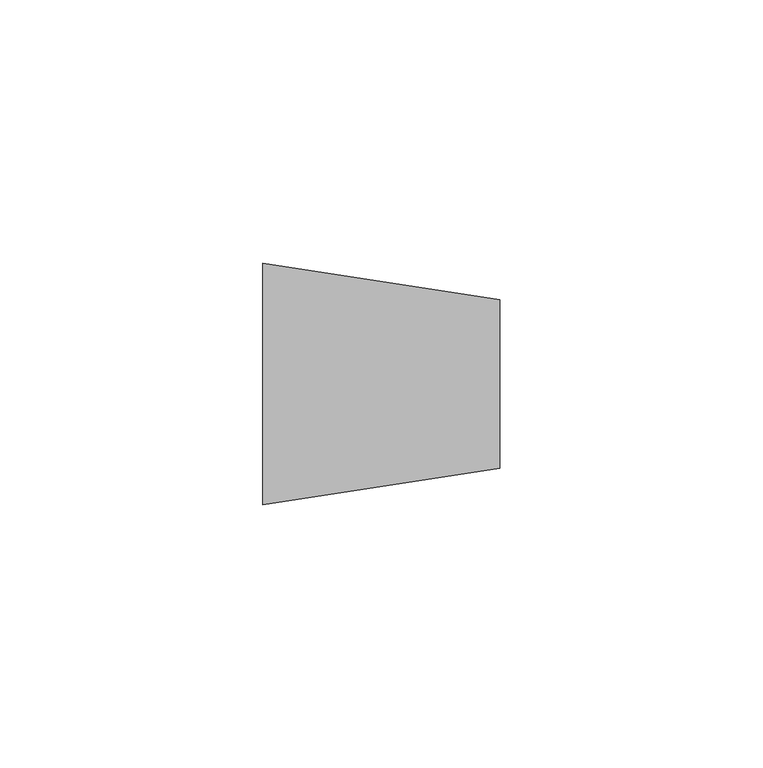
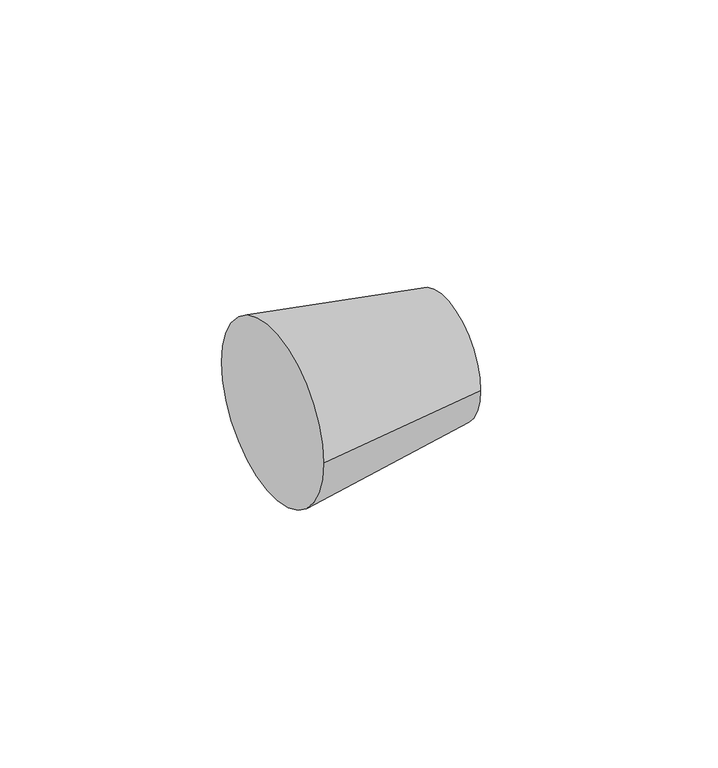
"""IFC4 building model written with IfcOpenShell, lengths in millimetres: pipe fitting geometry, ADSK_ЧугунРезьба_МуфтаПереходная_ГОСТ8957-75 : Неоцинкованные."""

from ifc_helpers import new_model, si_unit, frame, origin, place, context, project, spatial, polyline, circle_curve, source, transform, mapped, element, save
from ifc_brep_helpers import plane_surface, revolved_surface, advanced_brep


def pipe_fitting_d4206441(model_context):
    return source(origin(), model_context, "Body", "AdvancedBrep", [
        advanced_brep(
        [(45.0, -16.0, 0.0), (45.0, 16.0, 0.0), (0.0, -23.0, 0.0), (0.0, 23.0, 0.0)],
        [
            (0, 1, circle_curve(frame((45.0, 0.0, 0.0), z_axis=(1.0, 0.0, 0.0), x_axis=(0.0, -1.0, 0.0)), 16.0)),
            (1, 0, circle_curve(frame((45.0, 0.0, 0.0), z_axis=(1.0, 0.0, 0.0), x_axis=(0.0, 1.0, 0.0)), 16.0)),
            (2, 3, circle_curve(frame((0.0, 0.0, 0.0), z_axis=(-1.0, 0.0, 0.0), x_axis=(0.0, 1.0, 0.0)), 23.0)),
            (3, 2, circle_curve(frame((0.0, 0.0, 0.0), z_axis=(-1.0, 0.0, 0.0), x_axis=(0.0, -1.0, 0.0)), 23.0)),
            (3, 1),
            (0, 2),
        ],
        [
            plane_surface(frame((45.0, 0.0, 0.0), z_axis=(1.0, 0.0, 0.0), x_axis=(0.0, 0.0, -1.0))),
            plane_surface(frame((0.0, 0.0, 0.0), z_axis=(-1.0, 0.0, 0.0), x_axis=(0.0, 0.0, -1.0))),
            revolved_surface(polyline([(45.0, -16.000000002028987, 0.0), (0.0, -23.0, 0.0)]), (147.8571429, 0.0, 0.0), (-1.0, 0.0, 0.0)),
            revolved_surface(polyline([(45.0, 16.000000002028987, 0.0), (0.0, 23.0, 0.0)]), (147.8571429, 0.0, 0.0), (-1.0, 0.0, 0.0)),
        ],
        [
            (0, [[1, 2]]),
            (1, [[3, 4]]),
            (2, [[-4, 5, -1, 6]]),
            (3, [[-3, -6, -2, -5]]),
        ],
    ),
    ])


if __name__ == "__main__":
    model = new_model("IFC4")
    model_context = context("Model", 3, world=origin())
    ifc_project = project(units=[si_unit("LENGTHUNIT", "METRE", prefix="MILLI")], contexts=[model_context])
    site = spatial("IfcSite", under=ifc_project)
    building = spatial("IfcBuilding", under=site)
    placement = place(None, origin())
    pipe_fitting_shape = pipe_fitting_d4206441(model_context)
    element("IfcPipeFitting", 1, ObjectType="ADSK_ЧугунРезьба_МуфтаПереходная_ГОСТ8957-75 : Неоцинкованные", at=placement, inside=building, context=model_context, shape_type="MappedRepresentation", body=[
        mapped(pipe_fitting_shape, transform((0.0, 0.0, 0.0), x_axis=(1.0, 0.0, 0.0), y_axis=(0.0, 1.0, 0.0), z_axis=(0.0, 0.0, 1.0))),
    ])
    save(model, "model.ifc")
